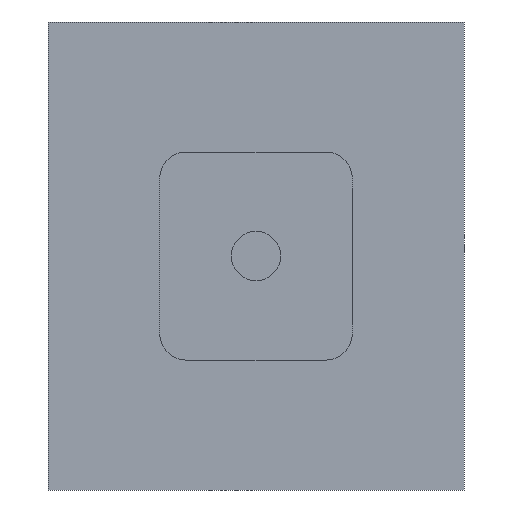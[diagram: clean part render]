
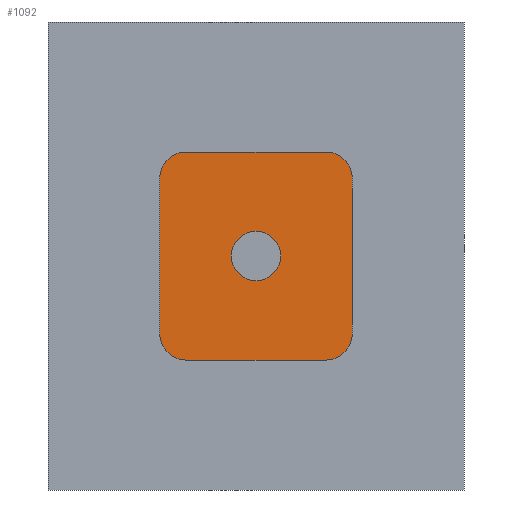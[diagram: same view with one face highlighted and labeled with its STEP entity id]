
A CAD part, front view. The second image highlights one B-rep face of the part: STEP entity #1092.
In plain terms, the highlighted planar face has unit normal (0, -1, 0).
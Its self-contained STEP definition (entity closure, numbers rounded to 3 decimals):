
#367 = PLANE('',#368);
#368 = AXIS2_PLACEMENT_3D('',#369,#370,#371);
#369 = CARTESIAN_POINT('',(-30.7,0.6,17.));
#370 = DIRECTION('',(-1.,0.,0.));
#371 = DIRECTION('',(0.,0.,1.));
#399 = CYLINDRICAL_SURFACE('',#400,1.);
#400 = AXIS2_PLACEMENT_3D('',#401,#402,#403);
#401 = CARTESIAN_POINT('',(-29.7,0.6,23.));
#402 = DIRECTION('',(0.,1.,0.));
#403 = DIRECTION('',(1.,0.,0.));
#426 = PLANE('',#427);
#427 = AXIS2_PLACEMENT_3D('',#428,#429,#430);
#428 = CARTESIAN_POINT('',(-29.7,0.6,24.));
#429 = DIRECTION('',(0.,0.,1.));
#430 = DIRECTION('',(1.,0.,0.));
#458 = CYLINDRICAL_SURFACE('',#459,1.);
#459 = AXIS2_PLACEMENT_3D('',#460,#461,#462);
#460 = CARTESIAN_POINT('',(-24.3,0.6,23.));
#461 = DIRECTION('',(0.,1.,0.));
#462 = DIRECTION('',(1.,0.,0.));
#485 = PLANE('',#486);
#486 = AXIS2_PLACEMENT_3D('',#487,#488,#489);
#487 = CARTESIAN_POINT('',(-23.3,0.6,17.));
#488 = DIRECTION('',(-1.,0.,0.));
#489 = DIRECTION('',(0.,0.,1.));
#517 = CYLINDRICAL_SURFACE('',#518,1.);
#518 = AXIS2_PLACEMENT_3D('',#519,#520,#521);
#519 = CARTESIAN_POINT('',(-24.3,0.6,17.));
#520 = DIRECTION('',(0.,1.,0.));
#521 = DIRECTION('',(1.,0.,0.));
#544 = PLANE('',#545);
#545 = AXIS2_PLACEMENT_3D('',#546,#547,#548);
#546 = CARTESIAN_POINT('',(-29.7,0.6,16.));
#547 = DIRECTION('',(0.,0.,1.));
#548 = DIRECTION('',(1.,0.,0.));
#574 = CYLINDRICAL_SURFACE('',#575,1.);
#575 = AXIS2_PLACEMENT_3D('',#576,#577,#578);
#576 = CARTESIAN_POINT('',(-29.7,0.6,17.));
#577 = DIRECTION('',(0.,1.,0.));
#578 = DIRECTION('',(1.,0.,0.));
#591 = VERTEX_POINT('',#592);
#592 = CARTESIAN_POINT('',(-30.7,-4.,17.));
#613 = EDGE_CURVE('',#591,#614,#616,.T.);
#614 = VERTEX_POINT('',#615);
#615 = CARTESIAN_POINT('',(-30.7,-4.,23.));
#616 = SURFACE_CURVE('',#617,(#621,#628),.PCURVE_S1.);
#617 = LINE('',#618,#619);
#618 = CARTESIAN_POINT('',(-30.7,-4.,20.));
#619 = VECTOR('',#620,1.);
#620 = DIRECTION('',(0.,0.,1.));
#621 = PCURVE('',#367,#622);
#622 = DEFINITIONAL_REPRESENTATION('',(#623),#627);
#623 = LINE('',#624,#625);
#624 = CARTESIAN_POINT('',(3.,-4.6));
#625 = VECTOR('',#626,1.);
#626 = DIRECTION('',(1.,0.));
#627 = ( GEOMETRIC_REPRESENTATION_CONTEXT(2) 
PARAMETRIC_REPRESENTATION_CONTEXT() REPRESENTATION_CONTEXT('2D SPACE',''
  ) );
#628 = PCURVE('',#629,#634);
#629 = PLANE('',#630);
#630 = AXIS2_PLACEMENT_3D('',#631,#632,#633);
#631 = CARTESIAN_POINT('',(-27.,-4.,20.));
#632 = DIRECTION('',(0.,-1.,0.));
#633 = DIRECTION('',(1.,0.,0.));
#634 = DEFINITIONAL_REPRESENTATION('',(#635),#639);
#635 = LINE('',#636,#637);
#636 = CARTESIAN_POINT('',(-3.7,0.));
#637 = VECTOR('',#638,1.);
#638 = DIRECTION('',(0.,1.));
#639 = ( GEOMETRIC_REPRESENTATION_CONTEXT(2) 
PARAMETRIC_REPRESENTATION_CONTEXT() REPRESENTATION_CONTEXT('2D SPACE',''
  ) );
#667 = VERTEX_POINT('',#668);
#668 = CARTESIAN_POINT('',(-29.7,-4.,24.));
#689 = EDGE_CURVE('',#667,#614,#690,.T.);
#690 = SURFACE_CURVE('',#691,(#696,#703),.PCURVE_S1.);
#691 = CIRCLE('',#692,1.);
#692 = AXIS2_PLACEMENT_3D('',#693,#694,#695);
#693 = CARTESIAN_POINT('',(-29.7,-4.,23.));
#694 = DIRECTION('',(0.,-1.,0.));
#695 = DIRECTION('',(1.,0.,0.));
#696 = PCURVE('',#399,#697);
#697 = DEFINITIONAL_REPRESENTATION('',(#698),#702);
#698 = LINE('',#699,#700);
#699 = CARTESIAN_POINT('',(-0.,-4.6));
#700 = VECTOR('',#701,1.);
#701 = DIRECTION('',(-1.,0.));
#702 = ( GEOMETRIC_REPRESENTATION_CONTEXT(2) 
PARAMETRIC_REPRESENTATION_CONTEXT() REPRESENTATION_CONTEXT('2D SPACE',''
  ) );
#703 = PCURVE('',#629,#704);
#704 = DEFINITIONAL_REPRESENTATION('',(#705),#709);
#705 = CIRCLE('',#706,1.);
#706 = AXIS2_PLACEMENT_2D('',#707,#708);
#707 = CARTESIAN_POINT('',(-2.7,3.));
#708 = DIRECTION('',(1.,0.));
#709 = ( GEOMETRIC_REPRESENTATION_CONTEXT(2) 
PARAMETRIC_REPRESENTATION_CONTEXT() REPRESENTATION_CONTEXT('2D SPACE',''
  ) );
#717 = EDGE_CURVE('',#591,#718,#720,.T.);
#718 = VERTEX_POINT('',#719);
#719 = CARTESIAN_POINT('',(-29.7,-4.,16.));
#720 = SURFACE_CURVE('',#721,(#726,#733),.PCURVE_S1.);
#721 = CIRCLE('',#722,1.);
#722 = AXIS2_PLACEMENT_3D('',#723,#724,#725);
#723 = CARTESIAN_POINT('',(-29.7,-4.,17.));
#724 = DIRECTION('',(0.,-1.,0.));
#725 = DIRECTION('',(1.,0.,0.));
#726 = PCURVE('',#574,#727);
#727 = DEFINITIONAL_REPRESENTATION('',(#728),#732);
#728 = LINE('',#729,#730);
#729 = CARTESIAN_POINT('',(-0.,-4.6));
#730 = VECTOR('',#731,1.);
#731 = DIRECTION('',(-1.,0.));
#732 = ( GEOMETRIC_REPRESENTATION_CONTEXT(2) 
PARAMETRIC_REPRESENTATION_CONTEXT() REPRESENTATION_CONTEXT('2D SPACE',''
  ) );
#733 = PCURVE('',#629,#734);
#734 = DEFINITIONAL_REPRESENTATION('',(#735),#739);
#735 = CIRCLE('',#736,1.);
#736 = AXIS2_PLACEMENT_2D('',#737,#738);
#737 = CARTESIAN_POINT('',(-2.7,-3.));
#738 = DIRECTION('',(1.,0.));
#739 = ( GEOMETRIC_REPRESENTATION_CONTEXT(2) 
PARAMETRIC_REPRESENTATION_CONTEXT() REPRESENTATION_CONTEXT('2D SPACE',''
  ) );
#767 = EDGE_CURVE('',#667,#768,#770,.T.);
#768 = VERTEX_POINT('',#769);
#769 = CARTESIAN_POINT('',(-24.3,-4.,24.));
#770 = SURFACE_CURVE('',#771,(#775,#782),.PCURVE_S1.);
#771 = LINE('',#772,#773);
#772 = CARTESIAN_POINT('',(-27.,-4.,24.));
#773 = VECTOR('',#774,1.);
#774 = DIRECTION('',(1.,0.,0.));
#775 = PCURVE('',#426,#776);
#776 = DEFINITIONAL_REPRESENTATION('',(#777),#781);
#777 = LINE('',#778,#779);
#778 = CARTESIAN_POINT('',(2.7,-4.6));
#779 = VECTOR('',#780,1.);
#780 = DIRECTION('',(1.,0.));
#781 = ( GEOMETRIC_REPRESENTATION_CONTEXT(2) 
PARAMETRIC_REPRESENTATION_CONTEXT() REPRESENTATION_CONTEXT('2D SPACE',''
  ) );
#782 = PCURVE('',#629,#783);
#783 = DEFINITIONAL_REPRESENTATION('',(#784),#788);
#784 = LINE('',#785,#786);
#785 = CARTESIAN_POINT('',(0.,4.));
#786 = VECTOR('',#787,1.);
#787 = DIRECTION('',(1.,0.));
#788 = ( GEOMETRIC_REPRESENTATION_CONTEXT(2) 
PARAMETRIC_REPRESENTATION_CONTEXT() REPRESENTATION_CONTEXT('2D SPACE',''
  ) );
#816 = EDGE_CURVE('',#718,#817,#819,.T.);
#817 = VERTEX_POINT('',#818);
#818 = CARTESIAN_POINT('',(-24.3,-4.,16.));
#819 = SURFACE_CURVE('',#820,(#824,#831),.PCURVE_S1.);
#820 = LINE('',#821,#822);
#821 = CARTESIAN_POINT('',(-27.,-4.,16.));
#822 = VECTOR('',#823,1.);
#823 = DIRECTION('',(1.,0.,0.));
#824 = PCURVE('',#544,#825);
#825 = DEFINITIONAL_REPRESENTATION('',(#826),#830);
#826 = LINE('',#827,#828);
#827 = CARTESIAN_POINT('',(2.7,-4.6));
#828 = VECTOR('',#829,1.);
#829 = DIRECTION('',(1.,0.));
#830 = ( GEOMETRIC_REPRESENTATION_CONTEXT(2) 
PARAMETRIC_REPRESENTATION_CONTEXT() REPRESENTATION_CONTEXT('2D SPACE',''
  ) );
#831 = PCURVE('',#629,#832);
#832 = DEFINITIONAL_REPRESENTATION('',(#833),#837);
#833 = LINE('',#834,#835);
#834 = CARTESIAN_POINT('',(0.,-4.));
#835 = VECTOR('',#836,1.);
#836 = DIRECTION('',(1.,0.));
#837 = ( GEOMETRIC_REPRESENTATION_CONTEXT(2) 
PARAMETRIC_REPRESENTATION_CONTEXT() REPRESENTATION_CONTEXT('2D SPACE',''
  ) );
#865 = VERTEX_POINT('',#866);
#866 = CARTESIAN_POINT('',(-23.3,-4.,23.));
#887 = EDGE_CURVE('',#865,#768,#888,.T.);
#888 = SURFACE_CURVE('',#889,(#894,#901),.PCURVE_S1.);
#889 = CIRCLE('',#890,1.);
#890 = AXIS2_PLACEMENT_3D('',#891,#892,#893);
#891 = CARTESIAN_POINT('',(-24.3,-4.,23.));
#892 = DIRECTION('',(0.,-1.,0.));
#893 = DIRECTION('',(1.,0.,0.));
#894 = PCURVE('',#458,#895);
#895 = DEFINITIONAL_REPRESENTATION('',(#896),#900);
#896 = LINE('',#897,#898);
#897 = CARTESIAN_POINT('',(-0.,-4.6));
#898 = VECTOR('',#899,1.);
#899 = DIRECTION('',(-1.,0.));
#900 = ( GEOMETRIC_REPRESENTATION_CONTEXT(2) 
PARAMETRIC_REPRESENTATION_CONTEXT() REPRESENTATION_CONTEXT('2D SPACE',''
  ) );
#901 = PCURVE('',#629,#902);
#902 = DEFINITIONAL_REPRESENTATION('',(#903),#907);
#903 = CIRCLE('',#904,1.);
#904 = AXIS2_PLACEMENT_2D('',#905,#906);
#905 = CARTESIAN_POINT('',(2.7,3.));
#906 = DIRECTION('',(1.,0.));
#907 = ( GEOMETRIC_REPRESENTATION_CONTEXT(2) 
PARAMETRIC_REPRESENTATION_CONTEXT() REPRESENTATION_CONTEXT('2D SPACE',''
  ) );
#915 = EDGE_CURVE('',#817,#916,#918,.T.);
#916 = VERTEX_POINT('',#917);
#917 = CARTESIAN_POINT('',(-23.3,-4.,17.));
#918 = SURFACE_CURVE('',#919,(#924,#931),.PCURVE_S1.);
#919 = CIRCLE('',#920,1.);
#920 = AXIS2_PLACEMENT_3D('',#921,#922,#923);
#921 = CARTESIAN_POINT('',(-24.3,-4.,17.));
#922 = DIRECTION('',(0.,-1.,0.));
#923 = DIRECTION('',(1.,0.,0.));
#924 = PCURVE('',#517,#925);
#925 = DEFINITIONAL_REPRESENTATION('',(#926),#930);
#926 = LINE('',#927,#928);
#927 = CARTESIAN_POINT('',(-0.,-4.6));
#928 = VECTOR('',#929,1.);
#929 = DIRECTION('',(-1.,0.));
#930 = ( GEOMETRIC_REPRESENTATION_CONTEXT(2) 
PARAMETRIC_REPRESENTATION_CONTEXT() REPRESENTATION_CONTEXT('2D SPACE',''
  ) );
#931 = PCURVE('',#629,#932);
#932 = DEFINITIONAL_REPRESENTATION('',(#933),#937);
#933 = CIRCLE('',#934,1.);
#934 = AXIS2_PLACEMENT_2D('',#935,#936);
#935 = CARTESIAN_POINT('',(2.7,-3.));
#936 = DIRECTION('',(1.,0.));
#937 = ( GEOMETRIC_REPRESENTATION_CONTEXT(2) 
PARAMETRIC_REPRESENTATION_CONTEXT() REPRESENTATION_CONTEXT('2D SPACE',''
  ) );
#965 = EDGE_CURVE('',#916,#865,#966,.T.);
#966 = SURFACE_CURVE('',#967,(#971,#978),.PCURVE_S1.);
#967 = LINE('',#968,#969);
#968 = CARTESIAN_POINT('',(-23.3,-4.,20.));
#969 = VECTOR('',#970,1.);
#970 = DIRECTION('',(0.,0.,1.));
#971 = PCURVE('',#485,#972);
#972 = DEFINITIONAL_REPRESENTATION('',(#973),#977);
#973 = LINE('',#974,#975);
#974 = CARTESIAN_POINT('',(3.,-4.6));
#975 = VECTOR('',#976,1.);
#976 = DIRECTION('',(1.,0.));
#977 = ( GEOMETRIC_REPRESENTATION_CONTEXT(2) 
PARAMETRIC_REPRESENTATION_CONTEXT() REPRESENTATION_CONTEXT('2D SPACE',''
  ) );
#978 = PCURVE('',#629,#979);
#979 = DEFINITIONAL_REPRESENTATION('',(#980),#984);
#980 = LINE('',#981,#982);
#981 = CARTESIAN_POINT('',(3.7,0.));
#982 = VECTOR('',#983,1.);
#983 = DIRECTION('',(0.,1.));
#984 = ( GEOMETRIC_REPRESENTATION_CONTEXT(2) 
PARAMETRIC_REPRESENTATION_CONTEXT() REPRESENTATION_CONTEXT('2D SPACE',''
  ) );
#1092 = ADVANCED_FACE('',(#1093,#1103),#629,.T.);
#1093 = FACE_BOUND('',#1094,.T.);
#1094 = EDGE_LOOP('',(#1095,#1096,#1097,#1098,#1099,#1100,#1101,#1102));
#1095 = ORIENTED_EDGE('',*,*,#613,.F.);
#1096 = ORIENTED_EDGE('',*,*,#717,.T.);
#1097 = ORIENTED_EDGE('',*,*,#816,.T.);
#1098 = ORIENTED_EDGE('',*,*,#915,.T.);
#1099 = ORIENTED_EDGE('',*,*,#965,.T.);
#1100 = ORIENTED_EDGE('',*,*,#887,.T.);
#1101 = ORIENTED_EDGE('',*,*,#767,.F.);
#1102 = ORIENTED_EDGE('',*,*,#689,.T.);
#1103 = FACE_BOUND('',#1104,.T.);
#1104 = EDGE_LOOP('',(#1105));
#1105 = ORIENTED_EDGE('',*,*,#1106,.F.);
#1106 = EDGE_CURVE('',#1107,#1107,#1109,.T.);
#1107 = VERTEX_POINT('',#1108);
#1108 = CARTESIAN_POINT('',(-26.05,-4.,20.));
#1109 = SURFACE_CURVE('',#1110,(#1115,#1122),.PCURVE_S1.);
#1110 = CIRCLE('',#1111,0.95);
#1111 = AXIS2_PLACEMENT_3D('',#1112,#1113,#1114);
#1112 = CARTESIAN_POINT('',(-27.,-4.,20.));
#1113 = DIRECTION('',(0.,-1.,0.));
#1114 = DIRECTION('',(1.,0.,0.));
#1115 = PCURVE('',#629,#1116);
#1116 = DEFINITIONAL_REPRESENTATION('',(#1117),#1121);
#1117 = CIRCLE('',#1118,0.95);
#1118 = AXIS2_PLACEMENT_2D('',#1119,#1120);
#1119 = CARTESIAN_POINT('',(0.,0.));
#1120 = DIRECTION('',(1.,0.));
#1121 = ( GEOMETRIC_REPRESENTATION_CONTEXT(2) 
PARAMETRIC_REPRESENTATION_CONTEXT() REPRESENTATION_CONTEXT('2D SPACE',''
  ) );
#1122 = PCURVE('',#1123,#1128);
#1123 = CYLINDRICAL_SURFACE('',#1124,0.95);
#1124 = AXIS2_PLACEMENT_3D('',#1125,#1126,#1127);
#1125 = CARTESIAN_POINT('',(-27.,0.805,20.));
#1126 = DIRECTION('',(0.,-1.,0.));
#1127 = DIRECTION('',(1.,0.,0.));
#1128 = DEFINITIONAL_REPRESENTATION('',(#1129),#1133);
#1129 = LINE('',#1130,#1131);
#1130 = CARTESIAN_POINT('',(0.,4.805));
#1131 = VECTOR('',#1132,1.);
#1132 = DIRECTION('',(1.,0.));
#1133 = ( GEOMETRIC_REPRESENTATION_CONTEXT(2) 
PARAMETRIC_REPRESENTATION_CONTEXT() REPRESENTATION_CONTEXT('2D SPACE',''
  ) );
